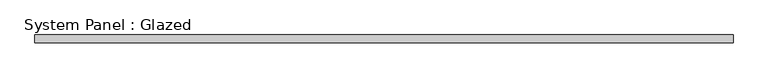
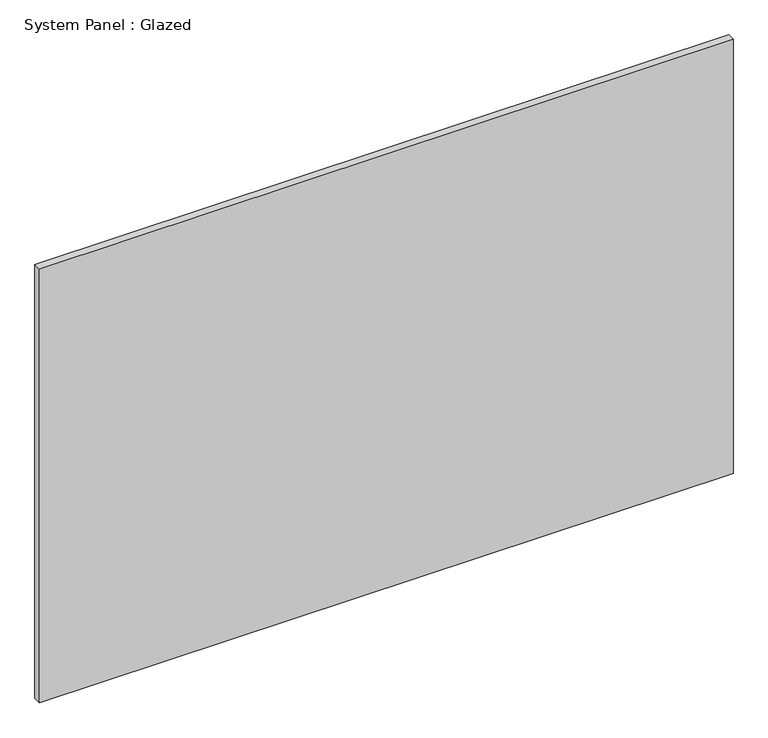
"""IFC4 building model written with IfcOpenShell, lengths in millimetres: plate geometry, System Panel : Glazed."""

from ifc_helpers import new_model, si_unit, origin, origin_with_axes, place, context, project, spatial, polyline, outline, extrude, source, transform, mapped, element, save


def system_panel_glazed_31feb5c5(model_context):
    return source(origin(), model_context, "Body", "SweptSolid", [
        extrude(outline(polyline([(1127.125, 19.05), (-1127.125, 19.05), (-1127.125, 44.45), (1127.125, 44.45), (1127.125, 19.05)])), origin_with_axes(), (0.0, 0.0, 1.0), 1492.25),
    ])


if __name__ == "__main__":
    model = new_model("IFC4")
    model_context = context("Model", 3, world=origin())
    ifc_project = project(units=[si_unit("LENGTHUNIT", "METRE", prefix="MILLI")], contexts=[model_context])
    site = spatial("IfcSite", under=ifc_project)
    building = spatial("IfcBuilding", under=site)
    placement = place(None, origin())
    system_panel_glazed_shape = system_panel_glazed_31feb5c5(model_context)
    element("IfcPlate", 1, ObjectType="System Panel : Glazed", at=placement, inside=building, context=model_context, shape_type="MappedRepresentation", body=[
        mapped(system_panel_glazed_shape, transform((0.0, 0.0, 0.0), x_axis=(1.0, 0.0, 0.0), y_axis=(0.0, 1.0, 0.0), z_axis=(0.0, 0.0, 1.0))),
    ])
    save(model, "model.ifc")
